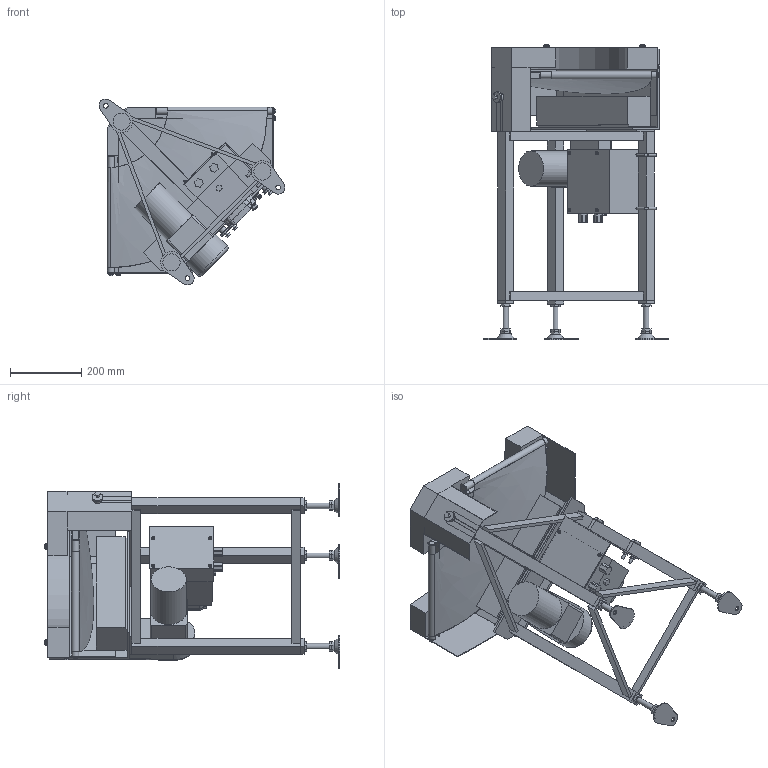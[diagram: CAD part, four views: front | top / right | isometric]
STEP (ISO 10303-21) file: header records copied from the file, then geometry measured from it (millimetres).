
FILE_DESCRIPTION (( 'STEP AP214' ), '1' );
FILE_NAME ('GFBC90-UD200-L.STEP', '2022-09-08T09:07:14', ( '' ), ( '' ), 'SwSTEP 2.0', 'SolidWorks 2017', '' );
FILE_SCHEMA (( 'AUTOMOTIVE_DESIGN' ));
Length unit declared in the file: millimetre
Products named in the file (1): GFBC90-UD200-L
Bounding box: 521.18 x 827.92 x 521.18 mm (x, y, z)
Volume: 19671997.1 mm3; surface area: 2762526.8 mm2
Topology: 54 solids, 55 shells, 953 faces, 2150 edges, 1385 vertices
Faces by surface type: plane 682, cylinder 187, bspline 38, cone 38, torus 6, sphere 2
Full cylindrical faces by diameter (mm): 4 x4, 4.2 x2, 4.5 x1, 5 x4, 5.9 x4, 6 x9, 7 x1, 7.6 x4, 8 x15, 9 x6, 10 x2, 12 x1, 12.2 x2, 12.5 x7, 13 x7, 15 x4, 16 x9, 18 x2, 18.4 x1, 20 x7, 21 x1, 25 x1, 30 x6, 99 x1
Entity records: 44218 total; most frequent: CARTESIAN_POINT 12575, DIRECTION 4092, ORIENTED_EDGE 3992, EDGE_CURVE 1996, LINE 1374, VECTOR 1374, AXIS2_PLACEMENT_3D 1359, VERTEX_POINT 1355
